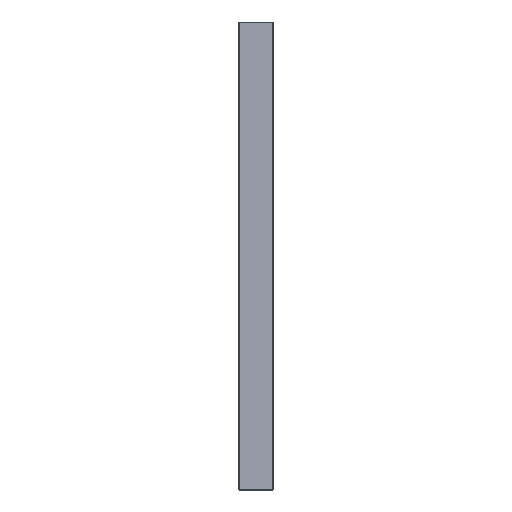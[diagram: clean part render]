
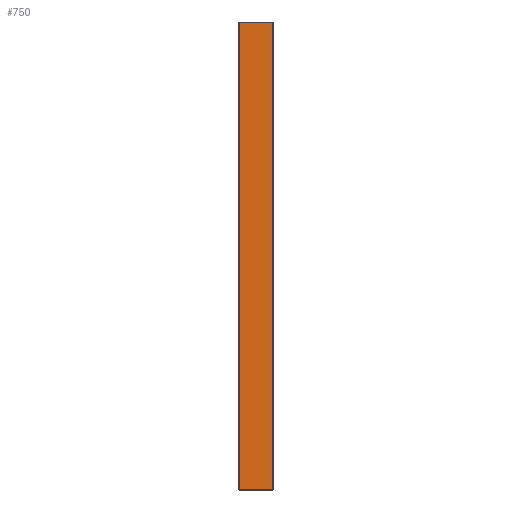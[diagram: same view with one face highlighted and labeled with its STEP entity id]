
A CAD part, front view. The second image highlights one B-rep face of the part: STEP entity #750.
In plain terms, the highlighted planar face has unit normal (0, -1, 0).
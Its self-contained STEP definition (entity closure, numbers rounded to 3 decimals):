
#74 = VERTEX_POINT ( 'NONE', #1194 ) ;
#80 = CARTESIAN_POINT ( 'NONE',  ( 0.1, 0., 0.1 ) ) ;
#139 = DIRECTION ( 'NONE',  ( 0., 0., -1. ) ) ;
#286 = AXIS2_PLACEMENT_3D ( 'NONE', #2769, #1376, #2995 ) ;
#321 = DIRECTION ( 'NONE',  ( 1., 0., 0. ) ) ;
#455 = ORIENTED_EDGE ( 'NONE', *, *, #2515, .T. ) ;
#508 = VECTOR ( 'NONE', #2375, 1000. ) ;
#538 = VERTEX_POINT ( 'NONE', #2263 ) ;
#592 = ORIENTED_EDGE ( 'NONE', *, *, #2866, .F. ) ;
#594 = CARTESIAN_POINT ( 'NONE',  ( 7.2, 0., 100. ) ) ;
#653 = LINE ( 'NONE', #594, #2440 ) ;
#711 = VERTEX_POINT ( 'NONE', #2647 ) ;
#750 = ADVANCED_FACE ( 'NONE', ( #3018 ), #2533, .F. ) ;
#806 = ORIENTED_EDGE ( 'NONE', *, *, #842, .T. ) ;
#842 = EDGE_CURVE ( 'NONE', #74, #1159, #2870, .T. ) ;
#1024 = VECTOR ( 'NONE', #321, 1000. ) ;
#1159 = VERTEX_POINT ( 'NONE', #1233 ) ;
#1194 = CARTESIAN_POINT ( 'NONE',  ( 0.1, 0., 0.1 ) ) ;
#1219 = CARTESIAN_POINT ( 'NONE',  ( 0.1, 0., 99.9 ) ) ;
#1233 = CARTESIAN_POINT ( 'NONE',  ( 7.2, 0., 0.1 ) ) ;
#1303 = ORIENTED_EDGE ( 'NONE', *, *, #1719, .T. ) ;
#1376 = DIRECTION ( 'NONE',  ( 0., 1., 0. ) ) ;
#1719 = EDGE_CURVE ( 'NONE', #711, #538, #1768, .T. ) ;
#1768 = LINE ( 'NONE', #1219, #508 ) ;
#1946 = VECTOR ( 'NONE', #2945, 1000. ) ;
#2006 = CARTESIAN_POINT ( 'NONE',  ( 0.1, 0., 100. ) ) ;
#2021 = LINE ( 'NONE', #2006, #1946 ) ;
#2263 = CARTESIAN_POINT ( 'NONE',  ( 0.1, 0., 99.9 ) ) ;
#2375 = DIRECTION ( 'NONE',  ( -1., 0., 0. ) ) ;
#2440 = VECTOR ( 'NONE', #139, 1000. ) ;
#2515 = EDGE_CURVE ( 'NONE', #538, #74, #2021, .T. ) ;
#2533 = PLANE ( 'NONE',  #286 ) ;
#2647 = CARTESIAN_POINT ( 'NONE',  ( 7.2, 0., 99.9 ) ) ;
#2769 = CARTESIAN_POINT ( 'NONE',  ( 0.1, 0., 100. ) ) ;
#2866 = EDGE_CURVE ( 'NONE', #711, #1159, #653, .T. ) ;
#2870 = LINE ( 'NONE', #80, #1024 ) ;
#2932 = EDGE_LOOP ( 'NONE', ( #455, #806, #592, #1303 ) ) ;
#2945 = DIRECTION ( 'NONE',  ( 0., 0., -1. ) ) ;
#2995 = DIRECTION ( 'NONE',  ( 0., 0., 1. ) ) ;
#3018 = FACE_OUTER_BOUND ( 'NONE', #2932, .T. ) ;
